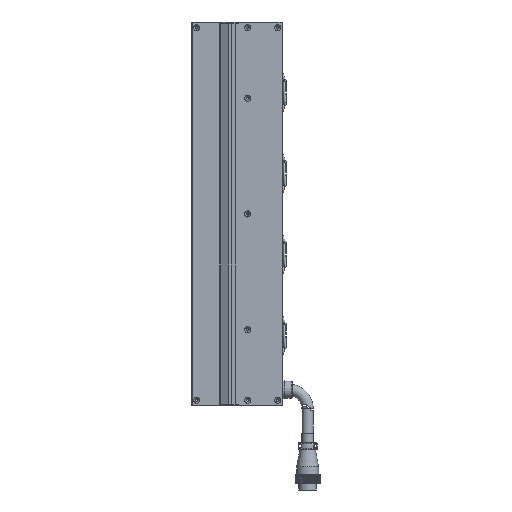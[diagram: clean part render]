
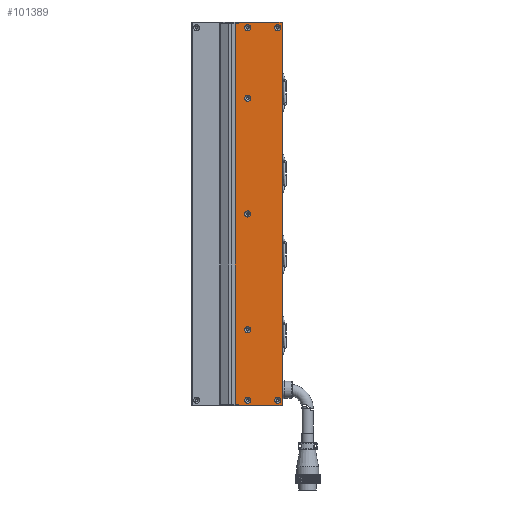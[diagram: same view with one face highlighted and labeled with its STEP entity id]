
A CAD part, left-side view. The second image highlights one B-rep face of the part: STEP entity #101389.
In plain terms, the highlighted planar face has unit normal (-1, 0, 0).
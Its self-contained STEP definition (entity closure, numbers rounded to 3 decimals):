
#423 = DIRECTION ( 'NONE',  ( -1., 0., 0. ) ) ;
#1537 = CARTESIAN_POINT ( 'NONE',  ( -24.998, -36.5, 123.15 ) ) ;
#2517 = FACE_BOUND ( 'NONE', #10906, .T. ) ;
#2626 = DIRECTION ( 'NONE',  ( 0., 0., 1. ) ) ;
#3150 = EDGE_LOOP ( 'NONE', ( #45319, #18162, #79677, #68013, #97176, #97194, #32429, #48350 ) ) ;
#3537 = VERTEX_POINT ( 'NONE', #1537 ) ;
#4356 = VERTEX_POINT ( 'NONE', #51622 ) ;
#5848 = EDGE_CURVE ( 'NONE', #34894, #4356, #13689, .T. ) ;
#6077 = EDGE_LOOP ( 'NONE', ( #43990 ) ) ;
#6296 = FACE_BOUND ( 'NONE', #66022, .T. ) ;
#8560 = CARTESIAN_POINT ( 'NONE',  ( -24.998, -72., 197. ) ) ;
#9737 = CIRCLE ( 'NONE', #24066, 3.15 ) ;
#10538 = VECTOR ( 'NONE', #68407, 1000. ) ;
#10794 = EDGE_CURVE ( 'NONE', #72071, #72071, #88444, .T. ) ;
#10906 = EDGE_LOOP ( 'NONE', ( #38169 ) ) ;
#11858 = EDGE_LOOP ( 'NONE', ( #77223 ) ) ;
#12677 = AXIS2_PLACEMENT_3D ( 'NONE', #89963, #66613, #98684 ) ;
#13246 = CARTESIAN_POINT ( 'NONE',  ( -24.998, -23.25, -197. ) ) ;
#13689 = LINE ( 'NONE', #65123, #70961 ) ;
#14287 = VERTEX_POINT ( 'NONE', #64998 ) ;
#14857 = FACE_OUTER_BOUND ( 'NONE', #3150, .T. ) ;
#15193 = CARTESIAN_POINT ( 'NONE',  ( -24.998, -36.5, 120. ) ) ;
#16045 = EDGE_CURVE ( 'NONE', #33476, #33476, #9737, .T. ) ;
#17091 = DIRECTION ( 'NONE',  ( 0., 0., 1. ) ) ;
#17854 = LINE ( 'NONE', #71786, #21519 ) ;
#18162 = ORIENTED_EDGE ( 'NONE', *, *, #5848, .T. ) ;
#18636 = AXIS2_PLACEMENT_3D ( 'NONE', #15193, #86293, #56211 ) ;
#18969 = VERTEX_POINT ( 'NONE', #13246 ) ;
#18983 = CIRCLE ( 'NONE', #12677, 3.15 ) ;
#20079 = CARTESIAN_POINT ( 'NONE',  ( -24.998, -72.5, -197. ) ) ;
#20595 = LINE ( 'NONE', #20079, #10538 ) ;
#21473 = CARTESIAN_POINT ( 'NONE',  ( -24.998, -72.5, -198.5 ) ) ;
#21519 = VECTOR ( 'NONE', #64440, 1000. ) ;
#21875 = EDGE_CURVE ( 'NONE', #18969, #34894, #20595, .T. ) ;
#22190 = DIRECTION ( 'NONE',  ( 0., 0., -1. ) ) ;
#23617 = FACE_BOUND ( 'NONE', #11858, .T. ) ;
#24066 = AXIS2_PLACEMENT_3D ( 'NONE', #66095, #98204, #90499 ) ;
#24541 = LINE ( 'NONE', #21473, #34555 ) ;
#24803 = CARTESIAN_POINT ( 'NONE',  ( -24.998, -67.5, -189.85 ) ) ;
#25832 = CARTESIAN_POINT ( 'NONE',  ( -24.998, -36.5, 196.15 ) ) ;
#25980 = EDGE_CURVE ( 'NONE', #53654, #58064, #17854, .T. ) ;
#28206 = CIRCLE ( 'NONE', #79268, 3.15 ) ;
#28258 = EDGE_CURVE ( 'NONE', #3537, #3537, #28864, .T. ) ;
#28864 = CIRCLE ( 'NONE', #18636, 3.15 ) ;
#29045 = EDGE_CURVE ( 'NONE', #59492, #59492, #18983, .T. ) ;
#32429 = ORIENTED_EDGE ( 'NONE', *, *, #25980, .F. ) ;
#33476 = VERTEX_POINT ( 'NONE', #89526 ) ;
#34555 = VECTOR ( 'NONE', #36801, 1000. ) ;
#34894 = VERTEX_POINT ( 'NONE', #53023 ) ;
#36129 = DIRECTION ( 'NONE',  ( -1., 0., 0. ) ) ;
#36631 = EDGE_LOOP ( 'NONE', ( #86846 ) ) ;
#36801 = DIRECTION ( 'NONE',  ( 0., -1., 0. ) ) ;
#38169 = ORIENTED_EDGE ( 'NONE', *, *, #93153, .F. ) ;
#40041 = VECTOR ( 'NONE', #71491, 1000. ) ;
#41597 = DIRECTION ( 'NONE',  ( 0., 0., -1. ) ) ;
#42701 = CARTESIAN_POINT ( 'NONE',  ( -24.998, -26.5, 197. ) ) ;
#43990 = ORIENTED_EDGE ( 'NONE', *, *, #10794, .F. ) ;
#45319 = ORIENTED_EDGE ( 'NONE', *, *, #21875, .T. ) ;
#46941 = ORIENTED_EDGE ( 'NONE', *, *, #61604, .F. ) ;
#48128 = DIRECTION ( 'NONE',  ( 0., 0., 1. ) ) ;
#48350 = ORIENTED_EDGE ( 'NONE', *, *, #62045, .F. ) ;
#49522 = CARTESIAN_POINT ( 'NONE',  ( -24.998, -26.5, 198.5 ) ) ;
#49588 = PLANE ( 'NONE',  #59749 ) ;
#50113 = CARTESIAN_POINT ( 'NONE',  ( -24.998, -23.25, 197. ) ) ;
#50212 = CARTESIAN_POINT ( 'NONE',  ( -24.998, -67.5, 193. ) ) ;
#50531 = EDGE_LOOP ( 'NONE', ( #51602 ) ) ;
#50892 = VECTOR ( 'NONE', #57208, 1000. ) ;
#50920 = CARTESIAN_POINT ( 'NONE',  ( -24.998, -36.5, 0. ) ) ;
#51602 = ORIENTED_EDGE ( 'NONE', *, *, #58860, .F. ) ;
#51622 = CARTESIAN_POINT ( 'NONE',  ( -24.998, -26.5, -198.5 ) ) ;
#52587 = EDGE_CURVE ( 'NONE', #61608, #58064, #97876, .T. ) ;
#52899 = CARTESIAN_POINT ( 'NONE',  ( -24.998, -72., 198.5 ) ) ;
#53023 = CARTESIAN_POINT ( 'NONE',  ( -24.998, -26.5, -197. ) ) ;
#53654 = VERTEX_POINT ( 'NONE', #50113 ) ;
#53904 = CARTESIAN_POINT ( 'NONE',  ( -24.998, -36.5, -189.85 ) ) ;
#54223 = CIRCLE ( 'NONE', #65418, 3.15 ) ;
#54756 = FACE_BOUND ( 'NONE', #50531, .T. ) ;
#56211 = DIRECTION ( 'NONE',  ( 0., 0., 1. ) ) ;
#57208 = DIRECTION ( 'NONE',  ( 0., 0., 1. ) ) ;
#57406 = CARTESIAN_POINT ( 'NONE',  ( -24.998, -36.5, -193. ) ) ;
#58064 = VERTEX_POINT ( 'NONE', #42701 ) ;
#58266 = EDGE_CURVE ( 'NONE', #14287, #101997, #71174, .T. ) ;
#58860 = EDGE_CURVE ( 'NONE', #84340, #84340, #71072, .T. ) ;
#59492 = VERTEX_POINT ( 'NONE', #25832 ) ;
#59749 = AXIS2_PLACEMENT_3D ( 'NONE', #98397, #66291, #41597 ) ;
#60007 = DIRECTION ( 'NONE',  ( 0., 1., 0. ) ) ;
#60436 = CARTESIAN_POINT ( 'NONE',  ( -24.998, -67.5, -193. ) ) ;
#60895 = CARTESIAN_POINT ( 'NONE',  ( -24.998, -67.5, 196.15 ) ) ;
#61311 = EDGE_CURVE ( 'NONE', #101997, #61608, #99741, .T. ) ;
#61604 = EDGE_CURVE ( 'NONE', #103043, #103043, #28206, .T. ) ;
#61608 = VERTEX_POINT ( 'NONE', #49522 ) ;
#61612 = VECTOR ( 'NONE', #22190, 1000. ) ;
#62045 = EDGE_CURVE ( 'NONE', #18969, #53654, #74588, .T. ) ;
#64440 = DIRECTION ( 'NONE',  ( 0., -1., 0. ) ) ;
#64687 = AXIS2_PLACEMENT_3D ( 'NONE', #57406, #423, #17091 ) ;
#64998 = CARTESIAN_POINT ( 'NONE',  ( -24.998, -72., -198.5 ) ) ;
#65123 = CARTESIAN_POINT ( 'NONE',  ( -24.998, -26.5, -190. ) ) ;
#65418 = AXIS2_PLACEMENT_3D ( 'NONE', #50920, #95878, #48128 ) ;
#66022 = EDGE_LOOP ( 'NONE', ( #46941 ) ) ;
#66095 = CARTESIAN_POINT ( 'NONE',  ( -24.998, -36.5, -120. ) ) ;
#66291 = DIRECTION ( 'NONE',  ( 1., 0., 0. ) ) ;
#66613 = DIRECTION ( 'NONE',  ( -1., 0., 0. ) ) ;
#68013 = ORIENTED_EDGE ( 'NONE', *, *, #58266, .T. ) ;
#68031 = CARTESIAN_POINT ( 'NONE',  ( -24.998, -72.5, 198.5 ) ) ;
#68407 = DIRECTION ( 'NONE',  ( 0., -1., 0. ) ) ;
#69744 = FACE_BOUND ( 'NONE', #6077, .T. ) ;
#70961 = VECTOR ( 'NONE', #97227, 1000. ) ;
#71072 = CIRCLE ( 'NONE', #64687, 3.15 ) ;
#71174 = LINE ( 'NONE', #8560, #40041 ) ;
#71491 = DIRECTION ( 'NONE',  ( 0., 0., 1. ) ) ;
#71786 = CARTESIAN_POINT ( 'NONE',  ( -24.998, -72.5, 197. ) ) ;
#72071 = VERTEX_POINT ( 'NONE', #24803 ) ;
#72351 = CARTESIAN_POINT ( 'NONE',  ( -24.998, -36.5, 3.15 ) ) ;
#72553 = CARTESIAN_POINT ( 'NONE',  ( -24.998, -23.25, -197. ) ) ;
#74588 = LINE ( 'NONE', #72553, #50892 ) ;
#77149 = CARTESIAN_POINT ( 'NONE',  ( -24.998, -26.5, 190. ) ) ;
#77223 = ORIENTED_EDGE ( 'NONE', *, *, #28258, .F. ) ;
#77352 = ORIENTED_EDGE ( 'NONE', *, *, #29045, .F. ) ;
#78491 = VECTOR ( 'NONE', #60007, 1000. ) ;
#79268 = AXIS2_PLACEMENT_3D ( 'NONE', #50212, #97275, #2626 ) ;
#79677 = ORIENTED_EDGE ( 'NONE', *, *, #87701, .T. ) ;
#81277 = AXIS2_PLACEMENT_3D ( 'NONE', #60436, #36129, #84511 ) ;
#84340 = VERTEX_POINT ( 'NONE', #53904 ) ;
#84511 = DIRECTION ( 'NONE',  ( 0., 0., 1. ) ) ;
#85861 = FACE_BOUND ( 'NONE', #87285, .T. ) ;
#86293 = DIRECTION ( 'NONE',  ( -1., 0., 0. ) ) ;
#86846 = ORIENTED_EDGE ( 'NONE', *, *, #16045, .F. ) ;
#87285 = EDGE_LOOP ( 'NONE', ( #77352 ) ) ;
#87701 = EDGE_CURVE ( 'NONE', #4356, #14287, #24541, .T. ) ;
#88444 = CIRCLE ( 'NONE', #81277, 3.15 ) ;
#89526 = CARTESIAN_POINT ( 'NONE',  ( -24.998, -36.5, -116.85 ) ) ;
#89963 = CARTESIAN_POINT ( 'NONE',  ( -24.998, -36.5, 193. ) ) ;
#90499 = DIRECTION ( 'NONE',  ( 0., 0., 1. ) ) ;
#93153 = EDGE_CURVE ( 'NONE', #94240, #94240, #54223, .T. ) ;
#94240 = VERTEX_POINT ( 'NONE', #72351 ) ;
#94640 = FACE_BOUND ( 'NONE', #36631, .T. ) ;
#95878 = DIRECTION ( 'NONE',  ( -1., 0., 0. ) ) ;
#97176 = ORIENTED_EDGE ( 'NONE', *, *, #61311, .T. ) ;
#97194 = ORIENTED_EDGE ( 'NONE', *, *, #52587, .T. ) ;
#97227 = DIRECTION ( 'NONE',  ( 0., 0., -1. ) ) ;
#97275 = DIRECTION ( 'NONE',  ( -1., 0., 0. ) ) ;
#97876 = LINE ( 'NONE', #77149, #61612 ) ;
#98204 = DIRECTION ( 'NONE',  ( -1., 0., 0. ) ) ;
#98397 = CARTESIAN_POINT ( 'NONE',  ( -24.998, -72.5, 197. ) ) ;
#98684 = DIRECTION ( 'NONE',  ( 0., 0., 1. ) ) ;
#99741 = LINE ( 'NONE', #68031, #78491 ) ;
#101389 = ADVANCED_FACE ( 'NONE', ( #85861, #94640, #23617, #2517, #69744, #54756, #14857, #6296 ), #49588, .F. ) ;
#101997 = VERTEX_POINT ( 'NONE', #52899 ) ;
#103043 = VERTEX_POINT ( 'NONE', #60895 ) ;
